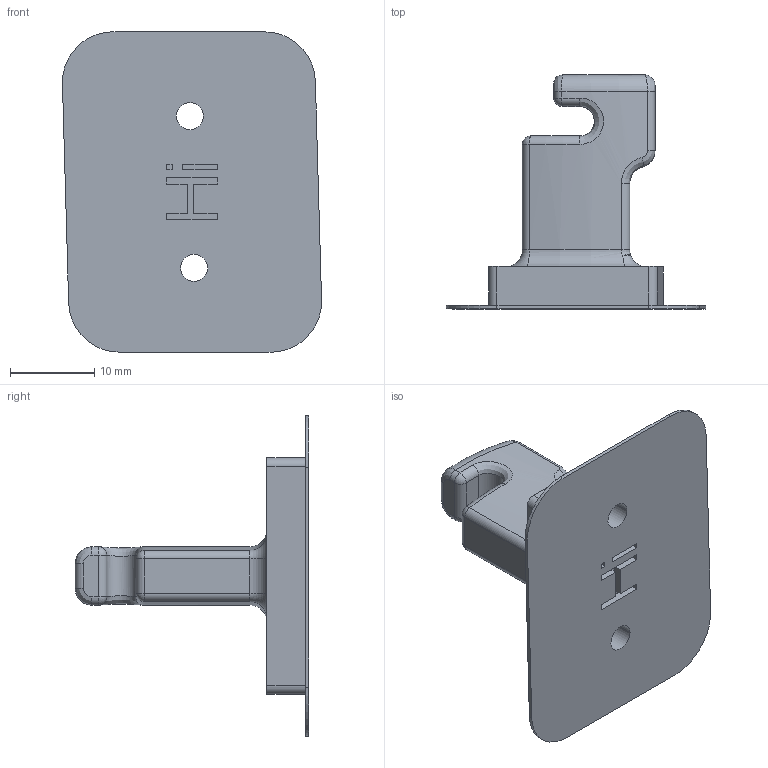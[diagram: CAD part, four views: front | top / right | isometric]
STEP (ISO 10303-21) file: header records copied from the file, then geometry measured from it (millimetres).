
FILE_DESCRIPTION((''),'2;1');
FILE_NAME('0000187329','2024-01-10T08:46:32',('Wyndorps'),(''),'CREO PARAMETRIC BY PTC INC, 2022484','CREO PARAMETRIC BY PTC INC, 2022484','');
FILE_SCHEMA(('CONFIG_CONTROL_DESIGN'));
Length unit declared in the file: millimetre
Products named in the file (1): 0000187329
Bounding box: 30.74 x 27.75 x 38 mm (x, y, z)
Volume: 4677.6 mm3; surface area: 3601 mm2
Topology: 1 solids, 1 shells, 106 faces, 251 edges, 152 vertices
Faces by surface type: plane 41, cylinder 31, torus 12, bspline 12, sphere 6, cone 4
Entity records: 4121 total; most frequent: CARTESIAN_POINT 1659, DIRECTION 509, ORIENTED_EDGE 502, EDGE_CURVE 251, AXIS2_PLACEMENT_3D 188, VERTEX_POINT 152, VECTOR 133, LINE 133
